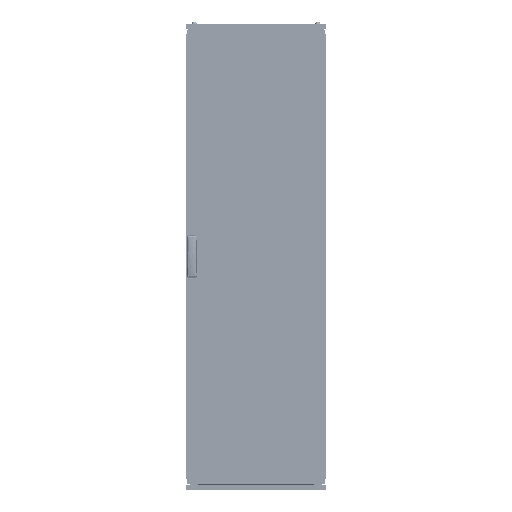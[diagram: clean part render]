
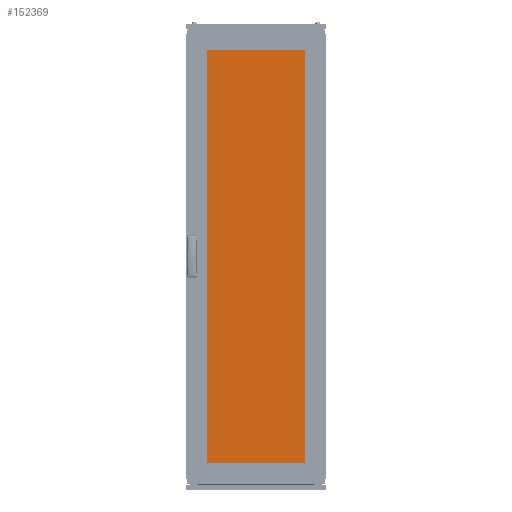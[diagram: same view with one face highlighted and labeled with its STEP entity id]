
A CAD part, top view. The second image highlights one B-rep face of the part: STEP entity #152369.
In plain terms, the highlighted planar face has unit normal (0, 0, 1).
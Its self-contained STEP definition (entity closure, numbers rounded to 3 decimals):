
#12138 = DIRECTION ( 'NONE',  ( 0., 0., -1. ) ) ;
#12337 = VERTEX_POINT ( 'NONE', #93382 ) ;
#13285 = PLANE ( 'NONE',  #69038 ) ;
#19612 = VERTEX_POINT ( 'NONE', #81855 ) ;
#24170 = VECTOR ( 'NONE', #90042, 1000. ) ;
#27296 = ORIENTED_EDGE ( 'NONE', *, *, #71197, .T. ) ;
#34951 = ORIENTED_EDGE ( 'NONE', *, *, #124037, .T. ) ;
#35580 = LINE ( 'NONE', #138374, #208331 ) ;
#46938 = CARTESIAN_POINT ( 'NONE',  ( 230., -910., 5. ) ) ;
#50008 = ORIENTED_EDGE ( 'NONE', *, *, #105116, .T. ) ;
#51987 = DIRECTION ( 'NONE',  ( 1., 0., 0. ) ) ;
#52937 = CARTESIAN_POINT ( 'NONE',  ( -230., -910., 5. ) ) ;
#53908 = LINE ( 'NONE', #140923, #24170 ) ;
#69038 = AXIS2_PLACEMENT_3D ( 'NONE', #78853, #12138, #182822 ) ;
#71197 = EDGE_CURVE ( 'NONE', #19612, #12337, #53908, .T. ) ;
#78853 = CARTESIAN_POINT ( 'NONE',  ( 0., 0., 5. ) ) ;
#78998 = VERTEX_POINT ( 'NONE', #46938 ) ;
#81855 = CARTESIAN_POINT ( 'NONE',  ( 230., 910., 5. ) ) ;
#83275 = FACE_OUTER_BOUND ( 'NONE', #177524, .T. ) ;
#87979 = VECTOR ( 'NONE', #51987, 1000. ) ;
#90042 = DIRECTION ( 'NONE',  ( -1., 0., 0. ) ) ;
#93382 = CARTESIAN_POINT ( 'NONE',  ( -230., 910., 5. ) ) ;
#105116 = EDGE_CURVE ( 'NONE', #159553, #78998, #137890, .T. ) ;
#110886 = DIRECTION ( 'NONE',  ( 0., -1., 0. ) ) ;
#124037 = EDGE_CURVE ( 'NONE', #12337, #159553, #216982, .T. ) ;
#137890 = LINE ( 'NONE', #206798, #87979 ) ;
#138374 = CARTESIAN_POINT ( 'NONE',  ( 230., -910., 5. ) ) ;
#140923 = CARTESIAN_POINT ( 'NONE',  ( -230., 910., 5. ) ) ;
#142419 = ORIENTED_EDGE ( 'NONE', *, *, #212140, .T. ) ;
#152369 = ADVANCED_FACE ( 'NONE', ( #83275 ), #13285, .F. ) ;
#159553 = VERTEX_POINT ( 'NONE', #52937 ) ;
#175268 = VECTOR ( 'NONE', #110886, 1000. ) ;
#177524 = EDGE_LOOP ( 'NONE', ( #142419, #27296, #34951, #50008 ) ) ;
#182822 = DIRECTION ( 'NONE',  ( -1., 0., 0. ) ) ;
#189240 = DIRECTION ( 'NONE',  ( 0., 1., 0. ) ) ;
#196716 = CARTESIAN_POINT ( 'NONE',  ( -230., -910., 5. ) ) ;
#206798 = CARTESIAN_POINT ( 'NONE',  ( -230., -910., 5. ) ) ;
#208331 = VECTOR ( 'NONE', #189240, 1000. ) ;
#212140 = EDGE_CURVE ( 'NONE', #78998, #19612, #35580, .T. ) ;
#216982 = LINE ( 'NONE', #196716, #175268 ) ;
